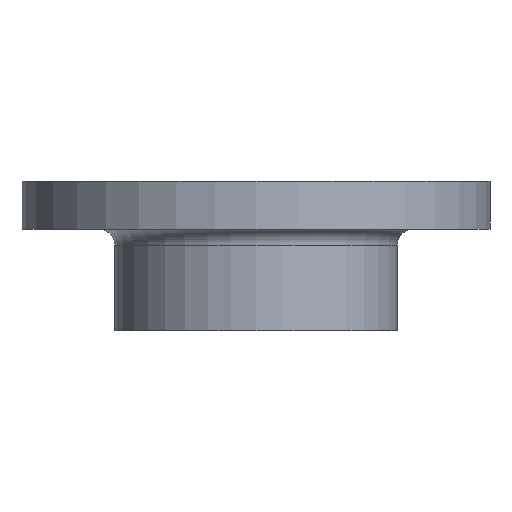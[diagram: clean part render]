
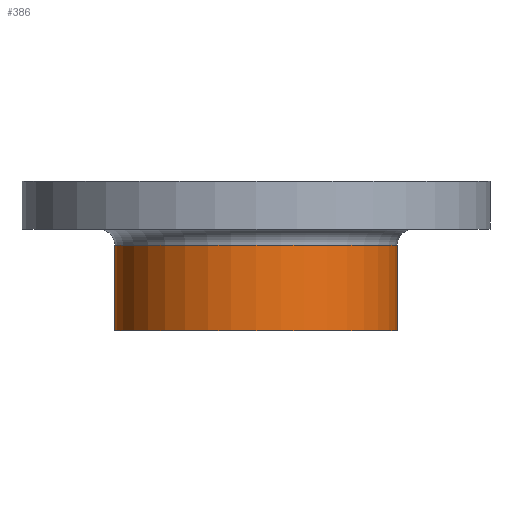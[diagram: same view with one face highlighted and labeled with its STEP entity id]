
A CAD part, front view. The second image highlights one B-rep face of the part: STEP entity #386.
In plain terms, the highlighted cylindrical face has radius 71 mm (diameter 142 mm), a partial arc.
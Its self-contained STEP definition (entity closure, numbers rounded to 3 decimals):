
#7 = VECTOR ( 'NONE', #412, 1000. ) ;
#20 = CIRCLE ( 'NONE', #371, 71. ) ;
#48 = AXIS2_PLACEMENT_3D ( 'NONE', #471, #472, #474 ) ;
#153 = EDGE_CURVE ( 'NONE', #693, #601, #409, .T. ) ;
#195 = CARTESIAN_POINT ( 'NONE',  ( 71., 0., -75. ) ) ;
#197 = CARTESIAN_POINT ( 'NONE',  ( -71., 0., -32. ) ) ;
#238 = CARTESIAN_POINT ( 'NONE',  ( 71., 0., -32. ) ) ;
#251 = CARTESIAN_POINT ( 'NONE',  ( -71., 0., -75. ) ) ;
#327 = EDGE_CURVE ( 'NONE', #585, #693, #385, .T. ) ;
#340 = EDGE_CURVE ( 'NONE', #686, #601, #20, .T. ) ;
#357 = EDGE_CURVE ( 'NONE', #585, #686, #487, .T. ) ;
#365 = VECTOR ( 'NONE', #490, 1000. ) ;
#371 = AXIS2_PLACEMENT_3D ( 'NONE', #481, #482, #483 ) ;
#384 = AXIS2_PLACEMENT_3D ( 'NONE', #511, #512, #513 ) ;
#385 = CIRCLE ( 'NONE', #48, 71. ) ;
#386 = ADVANCED_FACE ( 'NONE', ( #508 ), #509, .T. ) ;
#409 = LINE ( 'NONE', #411, #7 ) ;
#411 = CARTESIAN_POINT ( 'NONE',  ( 71., 0., 0. ) ) ;
#412 = DIRECTION ( 'NONE',  ( 0., 0., 1. ) ) ;
#471 = CARTESIAN_POINT ( 'NONE',  ( 0., 0., -75. ) ) ;
#472 = DIRECTION ( 'NONE',  ( 0., 0., 1. ) ) ;
#474 = DIRECTION ( 'NONE',  ( 1., 0., 0. ) ) ;
#481 = CARTESIAN_POINT ( 'NONE',  ( 0., 0., -32. ) ) ;
#482 = DIRECTION ( 'NONE',  ( 0., 0., 1. ) ) ;
#483 = DIRECTION ( 'NONE',  ( 1., 0., 0. ) ) ;
#487 = LINE ( 'NONE', #489, #365 ) ;
#489 = CARTESIAN_POINT ( 'NONE',  ( -71., 0., 0. ) ) ;
#490 = DIRECTION ( 'NONE',  ( 0., 0., 1. ) ) ;
#508 = FACE_OUTER_BOUND ( 'NONE', #653, .T. ) ;
#509 = CYLINDRICAL_SURFACE ( 'NONE', #384, 71. ) ;
#511 = CARTESIAN_POINT ( 'NONE',  ( 0., 0., 0. ) ) ;
#512 = DIRECTION ( 'NONE',  ( 0., 0., 1. ) ) ;
#513 = DIRECTION ( 'NONE',  ( 1., 0., 0. ) ) ;
#585 = VERTEX_POINT ( 'NONE', #251 ) ;
#601 = VERTEX_POINT ( 'NONE', #238 ) ;
#653 = EDGE_LOOP ( 'NONE', ( #685, #687, #688, #689 ) ) ;
#685 = ORIENTED_EDGE ( 'NONE', *, *, #357, .F. ) ;
#686 = VERTEX_POINT ( 'NONE', #197 ) ;
#687 = ORIENTED_EDGE ( 'NONE', *, *, #327, .T. ) ;
#688 = ORIENTED_EDGE ( 'NONE', *, *, #153, .T. ) ;
#689 = ORIENTED_EDGE ( 'NONE', *, *, #340, .F. ) ;
#693 = VERTEX_POINT ( 'NONE', #195 ) ;
